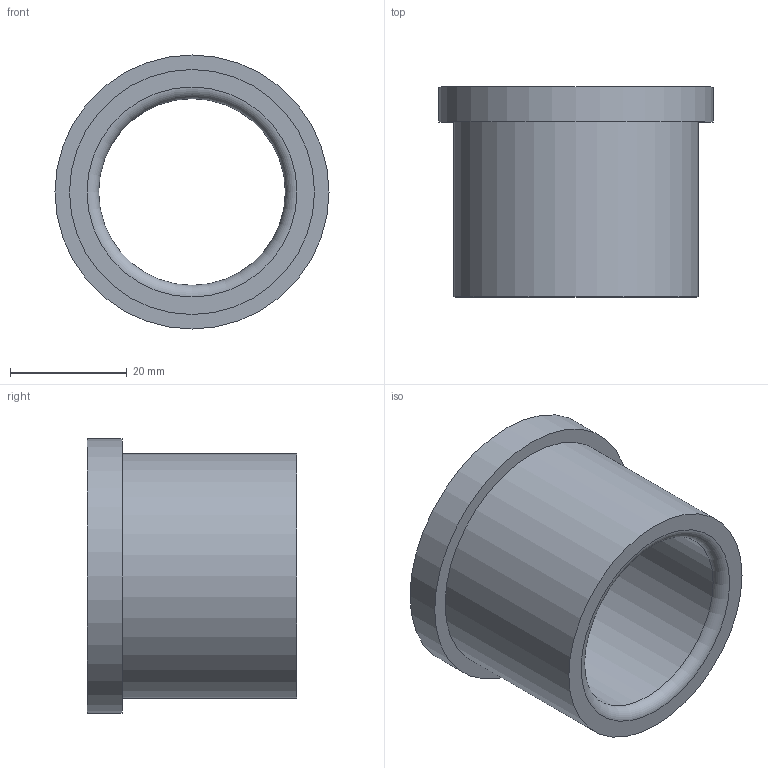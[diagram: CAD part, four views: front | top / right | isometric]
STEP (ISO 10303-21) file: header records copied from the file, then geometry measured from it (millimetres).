
FILE_DESCRIPTION(/* description */ ('STEP AP214'),/* implementation_level */ '2;1');
FILE_NAME(/* name */ '03_12_17946',/* time_stamp */ '2023-06-15T11:35:40+02:00',/* author */ ('License CC BY-ND 4.0'),/* organization */ ('CADENAS'),/* preprocessor_version */ 'ST-DEVELOPER v19.3',/* originating_system */ 'PARTsolutions',/* authorisation */ ' ');
FILE_SCHEMA (('AUTOMOTIVE_DESIGN {1 0 10303 214 3 1 1}'));
Length unit declared in the file: millimetre
Products named in the file (1): VA_Bushing_17946
Bounding box: 47 x 36 x 47 mm (x, y, z)
Volume: 22621.8 mm3; surface area: 10167.8 mm2
Topology: 1 solids, 1 shells, 10 faces, 16 edges, 10 vertices
Faces by surface type: cylinder 4, plane 4, torus 2
Full cylindrical faces by diameter (mm): 32 x1, 32.6 x1, 42 x1, 47 x1
Entity records: 302 total; most frequent: DIRECTION 42, CARTESIAN_POINT 31, AXIS2_PLACEMENT_3D 21, ORIENTED_EDGE 20, EDGE_LOOP 20, FACE_BOUND 20, EDGE_CURVE 10, VERTEX_POINT 10
